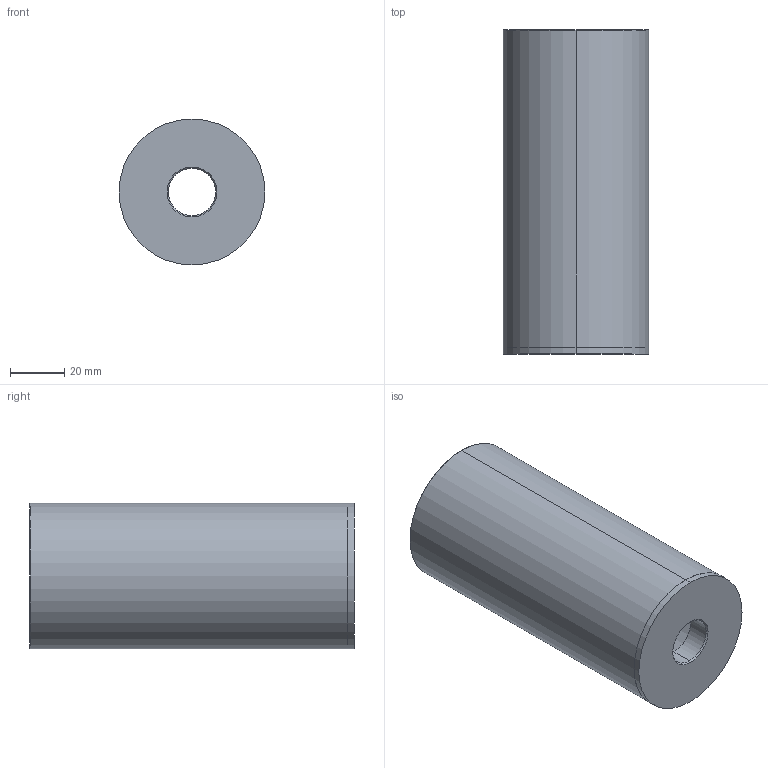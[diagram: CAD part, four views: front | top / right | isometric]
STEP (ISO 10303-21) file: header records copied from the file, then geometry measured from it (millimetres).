
FILE_DESCRIPTION (( 'STEP AP214' ), '1' );
FILE_NAME ('R05_54x120.STEP', '2020-03-20T00:02:34', ( '' ), ( '' ), 'SwSTEP 2.0', 'SolidWorks 2014', '' );
FILE_SCHEMA (( 'AUTOMOTIVE_DESIGN' ));
Length unit declared in the file: millimetre
Products named in the file (1): R05_54x120
Bounding box: 54.02 x 120 x 54.02 mm (x, y, z)
Volume: 116107.2 mm3; surface area: 39120.6 mm2
Topology: 1 solids, 1 shells, 19 faces, 38 edges, 22 vertices
Faces by surface type: cone 8, cylinder 8, plane 3
Entity records: 554 total; most frequent: DIRECTION 100, CARTESIAN_POINT 80, ORIENTED_EDGE 76, AXIS2_PLACEMENT_3D 42, EDGE_CURVE 38, CIRCLE 22, EDGE_LOOP 22, VERTEX_POINT 22
